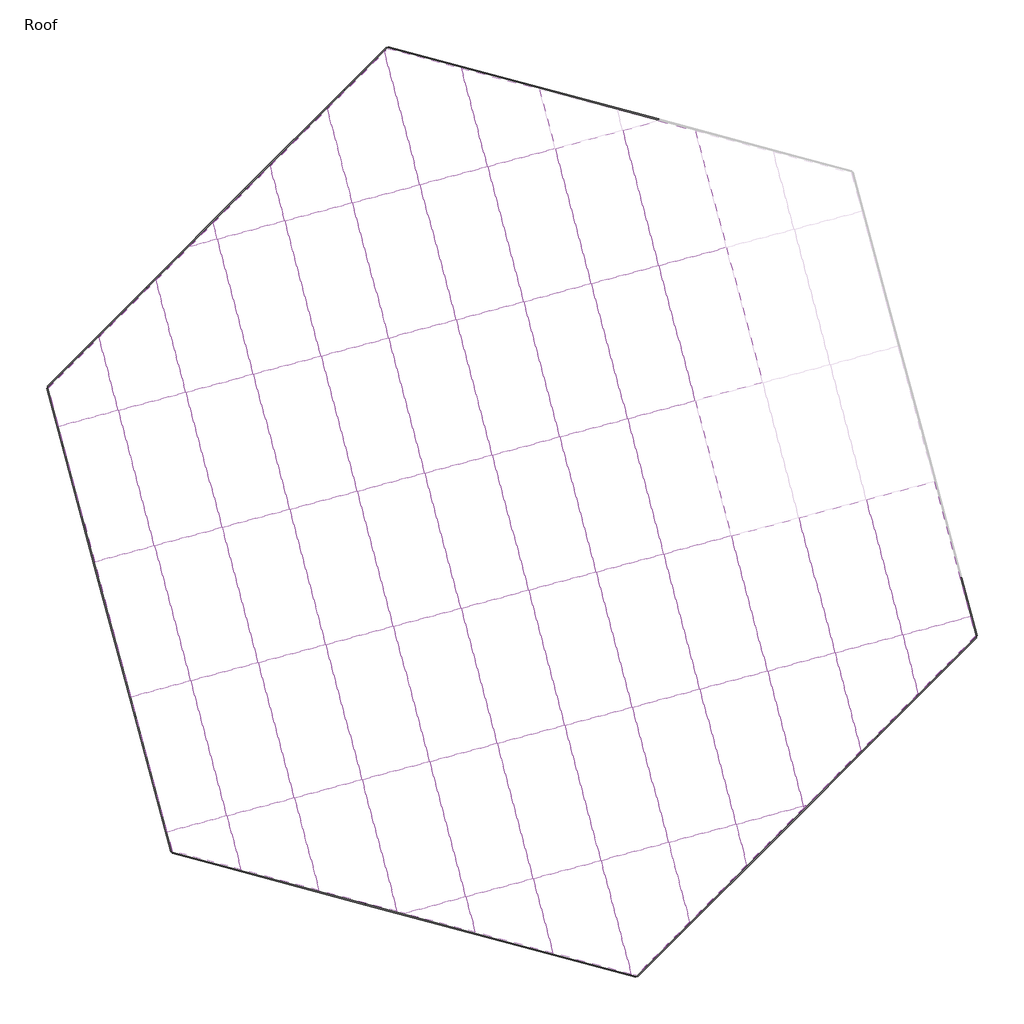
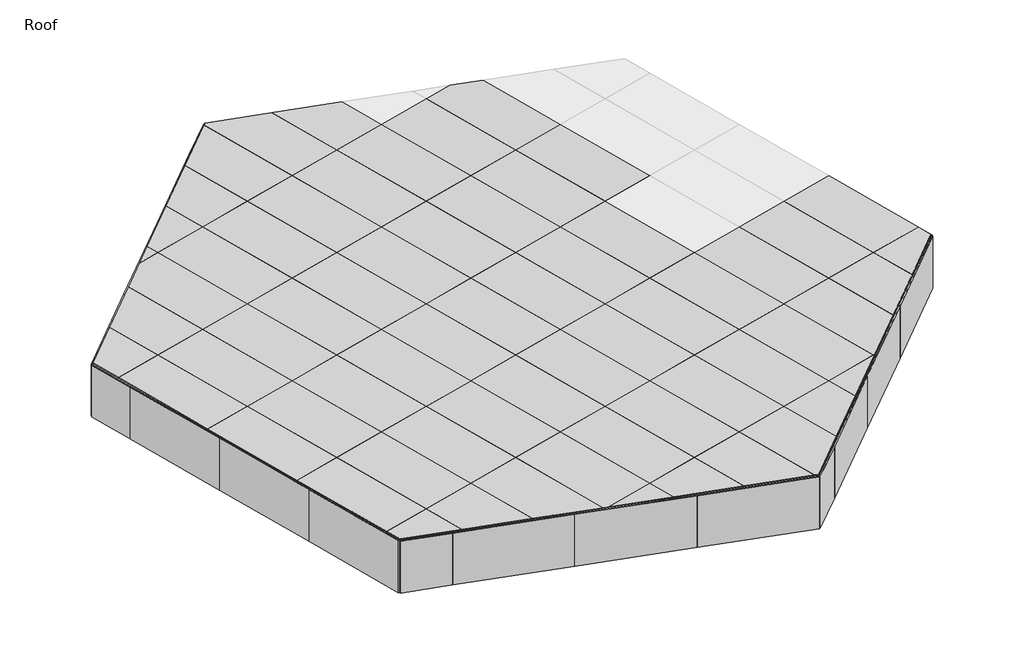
# One storey, part 1 of 2: 97 plates.
"""IFC4 building model written with IfcOpenShell, lengths in millimetres."""

from ifc_helpers import new_model, si_unit, origin, place, context, project, spatial, transform, mapped, element, save
from components import system_panel_glazed_1e57f9bb, system_panel_glazed_41de1ca9, system_panel_glazed_9d528060, system_panel_glazed_957c16e9, system_panel_glazed_10bb1eec, system_panel_glazed_0ee02577, system_panel_glazed_58931c70, system_panel_glazed_65a3f4b0, system_panel_glazed_29dc0488, system_panel_glazed_01caf445, system_panel_glazed_ebe184de, system_panel_glazed_0122edaa, system_panel_glazed_83acb073, system_panel_glazed_06145104, system_panel_glazed_495bd35e, system_panel_glazed_f12b8896, system_panel_glazed_990974af, system_panel_glazed_03df962e, system_panel_glazed_b678a0e2, system_panel_glazed_1b561ad4, system_panel_glazed_bc645063, system_panel_glazed_304d5fd4, system_panel_glazed_222c0f4e, system_panel_glazed_697c0dd3, system_panel_glazed_98c912bf, system_panel_glazed_e6bc90fe, system_panel_glazed_f067ecaa

model = new_model("IFC4")

# Units and contexts
model_context = context("Model", 3, world=origin())
ifc_project = project(units=[si_unit("LENGTHUNIT", "METRE", prefix="MILLI")], contexts=[model_context])

# Site, building, storey
site = spatial("IfcSite", under=ifc_project)
building = spatial("IfcBuilding", under=site)
storey = spatial("IfcBuildingStorey", under=building, Name="Roof", Elevation=7620.0)

# Plates
placement = place(None, origin())
system_panel_glazed_shape = system_panel_glazed_1e57f9bb(model_context)
element("IfcPlate", 1, ObjectType="System Panel : Glazed", at=placement, inside=storey, context=model_context, shape_type="MappedRepresentation", body=[
    mapped(system_panel_glazed_shape, transform((-38993.5918357, 9917.6121631, 7620.0), x_axis=(0.9659258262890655, -0.25881904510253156, 0.0), y_axis=(0.25881904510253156, 0.9659258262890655, 0.0), z_axis=(0.0, 0.0, 1.0))),
])
element("IfcPlate", 2, ObjectType="System Panel : Glazed", at=placement, inside=storey, context=model_context, shape_type="MappedRepresentation", body=[
    mapped(system_panel_glazed_shape, transform((-36049.449917, 9128.7317136, 7620.0), x_axis=(0.9659258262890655, -0.25881904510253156, 0.0), y_axis=(0.25881904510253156, 0.9659258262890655, 0.0), z_axis=(0.0, 0.0, 1.0))),
])
element("IfcPlate", 3, ObjectType="System Panel : Glazed", at=placement, inside=storey, context=model_context, shape_type="MappedRepresentation", body=[
    mapped(system_panel_glazed_shape, transform((-28741.6935298, -3567.1783468, 7620.0), x_axis=(-0.7071067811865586, -0.7071067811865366, 0.0), y_axis=(0.7071067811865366, -0.7071067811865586, 0.0), z_axis=(0.0, 0.0, 1.0))),
])
element("IfcPlate", 4, ObjectType="System Panel : Glazed", at=placement, inside=storey, context=model_context, shape_type="MappedRepresentation", body=[
    mapped(system_panel_glazed_shape, transform((-30896.9549989, -5722.4398159, 7620.0), x_axis=(-0.7071067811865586, -0.7071067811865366, 0.0), y_axis=(0.7071067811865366, -0.7071067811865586, 0.0), z_axis=(0.0, 0.0, 1.0))),
])
element("IfcPlate", 5, ObjectType="System Panel : Glazed", at=placement, inside=storey, context=model_context, shape_type="MappedRepresentation", body=[
    mapped(system_panel_glazed_shape, transform((-33052.216468, -7877.701285, 7620.0), x_axis=(-0.7071067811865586, -0.7071067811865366, 0.0), y_axis=(0.7071067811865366, -0.7071067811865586, 0.0), z_axis=(0.0, 0.0, 1.0))),
])
element("IfcPlate", 6, ObjectType="System Panel : Glazed", at=placement, inside=storey, context=model_context, shape_type="MappedRepresentation", body=[
    mapped(system_panel_glazed_shape, transform((-36527.1409606, -9486.1145934, 7620.0), x_axis=(-0.9659258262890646, 0.2588190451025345, 0.0), y_axis=(-0.2588190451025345, -0.9659258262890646, 0.0), z_axis=(0.0, 0.0, 1.0))),
])
element("IfcPlate", 7, ObjectType="System Panel : Glazed", at=placement, inside=storey, context=model_context, shape_type="MappedRepresentation", body=[
    mapped(system_panel_glazed_shape, transform((-39471.2828793, -8697.2341439, 7620.0), x_axis=(-0.9659258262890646, 0.2588190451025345, 0.0), y_axis=(-0.2588190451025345, -0.9659258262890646, 0.0), z_axis=(0.0, 0.0, 1.0))),
])
element("IfcPlate", 8, ObjectType="System Panel : Glazed", at=placement, inside=storey, context=model_context, shape_type="MappedRepresentation", body=[
    mapped(system_panel_glazed_shape, transform((-42415.4247978, -7908.3536944, 7620.0), x_axis=(-0.9659258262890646, 0.2588190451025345, 0.0), y_axis=(-0.2588190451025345, -0.9659258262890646, 0.0), z_axis=(0.0, 0.0, 1.0))),
])
element("IfcPlate", 9, ObjectType="System Panel : Glazed", at=placement, inside=storey, context=model_context, shape_type="MappedRepresentation", body=[
    mapped(system_panel_glazed_shape, transform((-28741.6935298, -3567.1783468, 7620.0), x_axis=(-0.7071067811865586, -0.7071067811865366, 0.0), y_axis=(0.7071067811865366, -0.7071067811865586, 0.0), z_axis=(0.0, 0.0, 1.0))),
])
element("IfcPlate", 10, ObjectType="System Panel : Glazed", at=placement, inside=storey, context=model_context, shape_type="MappedRepresentation", body=[
    mapped(system_panel_glazed_shape, transform((-30896.9549989, -5722.4398159, 7620.0), x_axis=(-0.7071067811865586, -0.7071067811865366, 0.0), y_axis=(0.7071067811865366, -0.7071067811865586, 0.0), z_axis=(0.0, 0.0, 1.0))),
])
element("IfcPlate", 11, ObjectType="System Panel : Glazed", at=placement, inside=storey, context=model_context, shape_type="MappedRepresentation", body=[
    mapped(system_panel_glazed_shape, transform((-33052.216468, -7877.701285, 7620.0), x_axis=(-0.7071067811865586, -0.7071067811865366, 0.0), y_axis=(0.7071067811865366, -0.7071067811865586, 0.0), z_axis=(0.0, 0.0, 1.0))),
])
element("IfcPlate", 12, ObjectType="System Panel : Glazed", at=placement, inside=storey, context=model_context, shape_type="MappedRepresentation", body=[
    mapped(system_panel_glazed_shape, transform((-28172.0453679, -593.7308413, 9144.0), x_axis=(0.25881904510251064, -0.965925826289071, 0.0), y_axis=(0.0, 0.0, 1.0), z_axis=(-0.965925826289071, -0.25881904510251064, 0.0))),
])
element("IfcPlate", 13, ObjectType="System Panel : Glazed", at=placement, inside=storey, context=model_context, shape_type="MappedRepresentation", body=[
    mapped(system_panel_glazed_shape, transform((-29644.1163271, -988.171066, 9144.0), x_axis=(0.25881904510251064, -0.965925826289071, 0.0), y_axis=(0.0, 0.0, 1.0), z_axis=(-0.965925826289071, -0.25881904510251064, 0.0))),
])
element("IfcPlate", 14, ObjectType="System Panel : Glazed", at=placement, inside=storey, context=model_context, shape_type="MappedRepresentation", body=[
    mapped(system_panel_glazed_shape, transform((-32693.9481853, 4505.6725463, 9144.0), x_axis=(0.25881904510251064, -0.965925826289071, 0.0), y_axis=(0.0, 0.0, 1.0), z_axis=(-0.965925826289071, -0.25881904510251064, 0.0))),
])
element("IfcPlate", 15, ObjectType="System Panel : Glazed", at=placement, inside=storey, context=model_context, shape_type="MappedRepresentation", body=[
    mapped(system_panel_glazed_shape, transform((-31116.1872864, -1382.6112908, 9144.0), x_axis=(0.25881904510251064, -0.965925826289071, 0.0), y_axis=(0.0, 0.0, 1.0), z_axis=(-0.965925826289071, -0.25881904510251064, 0.0))),
])
element("IfcPlate", 16, ObjectType="System Panel : Glazed", at=placement, inside=storey, context=model_context, shape_type="MappedRepresentation", body=[
    mapped(system_panel_glazed_shape, transform((-34954.8995941, 7055.3742401, 9144.0), x_axis=(0.25881904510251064, -0.965925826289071, 0.0), y_axis=(0.0, 0.0, 1.0), z_axis=(-0.965925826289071, -0.25881904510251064, 0.0))),
])
element("IfcPlate", 17, ObjectType="System Panel : Glazed", at=placement, inside=storey, context=model_context, shape_type="MappedRepresentation", body=[
    mapped(system_panel_glazed_shape, transform((-34166.0191446, 4111.2323216, 9144.0), x_axis=(0.25881904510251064, -0.965925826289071, 0.0), y_axis=(0.0, 0.0, 1.0), z_axis=(-0.965925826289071, -0.25881904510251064, 0.0))),
])
element("IfcPlate", 18, ObjectType="System Panel : Glazed", at=placement, inside=storey, context=model_context, shape_type="MappedRepresentation", body=[
    mapped(system_panel_glazed_shape, transform((-33377.1386951, 1167.090403, 9144.0), x_axis=(0.25881904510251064, -0.965925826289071, 0.0), y_axis=(0.0, 0.0, 1.0), z_axis=(-0.965925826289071, -0.25881904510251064, 0.0))),
])
element("IfcPlate", 19, ObjectType="System Panel : Glazed", at=placement, inside=storey, context=model_context, shape_type="MappedRepresentation", body=[
    mapped(system_panel_glazed_shape, transform((-32588.2582457, -1777.0515155, 9144.0), x_axis=(0.25881904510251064, -0.965925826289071, 0.0), y_axis=(0.0, 0.0, 1.0), z_axis=(-0.965925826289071, -0.25881904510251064, 0.0))),
])
element("IfcPlate", 20, ObjectType="System Panel : Glazed", at=placement, inside=storey, context=model_context, shape_type="MappedRepresentation", body=[
    mapped(system_panel_glazed_shape, transform((-31799.3777962, -4721.193434, 9144.0), x_axis=(0.25881904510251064, -0.965925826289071, 0.0), y_axis=(0.0, 0.0, 1.0), z_axis=(-0.965925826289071, -0.25881904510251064, 0.0))),
])
element("IfcPlate", 21, ObjectType="System Panel : Glazed", at=placement, inside=storey, context=model_context, shape_type="MappedRepresentation", body=[
    mapped(system_panel_glazed_shape, transform((-36426.9705533, 6660.9340154, 9144.0), x_axis=(0.25881904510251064, -0.965925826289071, 0.0), y_axis=(0.0, 0.0, 1.0), z_axis=(-0.965925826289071, -0.25881904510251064, 0.0))),
])
element("IfcPlate", 22, ObjectType="System Panel : Glazed", at=placement, inside=storey, context=model_context, shape_type="MappedRepresentation", body=[
    mapped(system_panel_glazed_shape, transform((-35638.0901039, 3716.7920968, 9144.0), x_axis=(0.25881904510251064, -0.965925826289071, 0.0), y_axis=(0.0, 0.0, 1.0), z_axis=(-0.965925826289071, -0.25881904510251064, 0.0))),
])
element("IfcPlate", 23, ObjectType="System Panel : Glazed", at=placement, inside=storey, context=model_context, shape_type="MappedRepresentation", body=[
    mapped(system_panel_glazed_shape, transform((-34849.2096544, 772.6501783, 9144.0), x_axis=(0.25881904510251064, -0.965925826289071, 0.0), y_axis=(0.0, 0.0, 1.0), z_axis=(-0.965925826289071, -0.25881904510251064, 0.0))),
])
element("IfcPlate", 24, ObjectType="System Panel : Glazed", at=placement, inside=storey, context=model_context, shape_type="MappedRepresentation", body=[
    mapped(system_panel_glazed_shape, transform((-34060.3292049, -2171.4917402, 9144.0), x_axis=(0.25881904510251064, -0.965925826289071, 0.0), y_axis=(0.0, 0.0, 1.0), z_axis=(-0.965925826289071, -0.25881904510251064, 0.0))),
])
element("IfcPlate", 25, ObjectType="System Panel : Glazed", at=placement, inside=storey, context=model_context, shape_type="MappedRepresentation", body=[
    mapped(system_panel_glazed_shape, transform((-33271.4487555, -5115.6336588, 9144.0), x_axis=(0.25881904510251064, -0.965925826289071, 0.0), y_axis=(0.0, 0.0, 1.0), z_axis=(-0.965925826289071, -0.25881904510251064, 0.0))),
])
element("IfcPlate", 26, ObjectType="System Panel : Glazed", at=placement, inside=storey, context=model_context, shape_type="MappedRepresentation", body=[
    mapped(system_panel_glazed_shape, transform((-37899.0415126, 6266.4937906, 9144.0), x_axis=(0.25881904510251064, -0.965925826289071, 0.0), y_axis=(0.0, 0.0, 1.0), z_axis=(-0.965925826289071, -0.25881904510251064, 0.0))),
])
element("IfcPlate", 27, ObjectType="System Panel : Glazed", at=placement, inside=storey, context=model_context, shape_type="MappedRepresentation", body=[
    mapped(system_panel_glazed_shape, transform((-37110.1610631, 3322.3518721, 9144.0), x_axis=(0.25881904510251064, -0.965925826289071, 0.0), y_axis=(0.0, 0.0, 1.0), z_axis=(-0.965925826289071, -0.25881904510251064, 0.0))),
])
element("IfcPlate", 28, ObjectType="System Panel : Glazed", at=placement, inside=storey, context=model_context, shape_type="MappedRepresentation", body=[
    mapped(system_panel_glazed_shape, transform((-36321.2806137, 378.2099536, 9144.0), x_axis=(0.25881904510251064, -0.965925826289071, 0.0), y_axis=(0.0, 0.0, 1.0), z_axis=(-0.965925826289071, -0.25881904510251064, 0.0))),
])
element("IfcPlate", 29, ObjectType="System Panel : Glazed", at=placement, inside=storey, context=model_context, shape_type="MappedRepresentation", body=[
    mapped(system_panel_glazed_shape, transform((-35532.4001642, -2565.931965, 9144.0), x_axis=(0.25881904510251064, -0.965925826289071, 0.0), y_axis=(0.0, 0.0, 1.0), z_axis=(-0.965925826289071, -0.25881904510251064, 0.0))),
])
element("IfcPlate", 30, ObjectType="System Panel : Glazed", at=placement, inside=storey, context=model_context, shape_type="MappedRepresentation", body=[
    mapped(system_panel_glazed_shape, transform((-34743.5197147, -5510.0738835, 9144.0), x_axis=(0.25881904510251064, -0.965925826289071, 0.0), y_axis=(0.0, 0.0, 1.0), z_axis=(-0.965925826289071, -0.25881904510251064, 0.0))),
])
element("IfcPlate", 31, ObjectType="System Panel : Glazed", at=placement, inside=storey, context=model_context, shape_type="MappedRepresentation", body=[
    mapped(system_panel_glazed_shape, transform((-39371.1124719, 5872.0535659, 9144.0), x_axis=(0.25881904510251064, -0.965925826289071, 0.0), y_axis=(0.0, 0.0, 1.0), z_axis=(-0.965925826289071, -0.25881904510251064, 0.0))),
])
element("IfcPlate", 32, ObjectType="System Panel : Glazed", at=placement, inside=storey, context=model_context, shape_type="MappedRepresentation", body=[
    mapped(system_panel_glazed_shape, transform((-38582.2320224, 2927.9116474, 9144.0), x_axis=(0.25881904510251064, -0.965925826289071, 0.0), y_axis=(0.0, 0.0, 1.0), z_axis=(-0.965925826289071, -0.25881904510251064, 0.0))),
])
element("IfcPlate", 33, ObjectType="System Panel : Glazed", at=placement, inside=storey, context=model_context, shape_type="MappedRepresentation", body=[
    mapped(system_panel_glazed_shape, transform((-37793.3515729, -16.2302712, 9144.0), x_axis=(0.25881904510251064, -0.965925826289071, 0.0), y_axis=(0.0, 0.0, 1.0), z_axis=(-0.965925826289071, -0.25881904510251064, 0.0))),
])
element("IfcPlate", 34, ObjectType="System Panel : Glazed", at=placement, inside=storey, context=model_context, shape_type="MappedRepresentation", body=[
    mapped(system_panel_glazed_shape, transform((-37004.4711235, -2960.3721897, 9144.0), x_axis=(0.25881904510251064, -0.965925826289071, 0.0), y_axis=(0.0, 0.0, 1.0), z_axis=(-0.965925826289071, -0.25881904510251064, 0.0))),
])
element("IfcPlate", 35, ObjectType="System Panel : Glazed", at=placement, inside=storey, context=model_context, shape_type="MappedRepresentation", body=[
    mapped(system_panel_glazed_shape, transform((-36215.590674, -5904.5141082, 9144.0), x_axis=(0.25881904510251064, -0.965925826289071, 0.0), y_axis=(0.0, 0.0, 1.0), z_axis=(-0.965925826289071, -0.25881904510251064, 0.0))),
])
element("IfcPlate", 36, ObjectType="System Panel : Glazed", at=placement, inside=storey, context=model_context, shape_type="MappedRepresentation", body=[
    mapped(system_panel_glazed_shape, transform((-40843.1834311, 5477.6133412, 9144.0), x_axis=(0.25881904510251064, -0.965925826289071, 0.0), y_axis=(0.0, 0.0, 1.0), z_axis=(-0.965925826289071, -0.25881904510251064, 0.0))),
])
element("IfcPlate", 37, ObjectType="System Panel : Glazed", at=placement, inside=storey, context=model_context, shape_type="MappedRepresentation", body=[
    mapped(system_panel_glazed_shape, transform((-40054.3029817, 2533.4714226, 9144.0), x_axis=(0.25881904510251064, -0.965925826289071, 0.0), y_axis=(0.0, 0.0, 1.0), z_axis=(-0.965925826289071, -0.25881904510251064, 0.0))),
])
element("IfcPlate", 38, ObjectType="System Panel : Glazed", at=placement, inside=storey, context=model_context, shape_type="MappedRepresentation", body=[
    mapped(system_panel_glazed_shape, transform((-39265.4225322, -410.6704959, 9144.0), x_axis=(0.25881904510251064, -0.965925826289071, 0.0), y_axis=(0.0, 0.0, 1.0), z_axis=(-0.965925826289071, -0.25881904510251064, 0.0))),
])
element("IfcPlate", 39, ObjectType="System Panel : Glazed", at=placement, inside=storey, context=model_context, shape_type="MappedRepresentation", body=[
    mapped(system_panel_glazed_shape, transform((-38476.5420827, -3354.8124144, 9144.0), x_axis=(0.25881904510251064, -0.965925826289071, 0.0), y_axis=(0.0, 0.0, 1.0), z_axis=(-0.965925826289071, -0.25881904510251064, 0.0))),
])
element("IfcPlate", 40, ObjectType="System Panel : Glazed", at=placement, inside=storey, context=model_context, shape_type="MappedRepresentation", body=[
    mapped(system_panel_glazed_shape, transform((-37687.6616332, -6298.954333, 9144.0), x_axis=(0.25881904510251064, -0.965925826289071, 0.0), y_axis=(0.0, 0.0, 1.0), z_axis=(-0.965925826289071, -0.25881904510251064, 0.0))),
])
element("IfcPlate", 41, ObjectType="System Panel : Glazed", at=placement, inside=storey, context=model_context, shape_type="MappedRepresentation", body=[
    mapped(system_panel_glazed_shape, transform((-42315.2543904, 5083.1731164, 9144.0), x_axis=(0.25881904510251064, -0.965925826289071, 0.0), y_axis=(0.0, 0.0, 1.0), z_axis=(-0.965925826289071, -0.25881904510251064, 0.0))),
])
element("IfcPlate", 42, ObjectType="System Panel : Glazed", at=placement, inside=storey, context=model_context, shape_type="MappedRepresentation", body=[
    mapped(system_panel_glazed_shape, transform((-41526.3739409, 2139.0311979, 9144.0), x_axis=(0.25881904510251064, -0.965925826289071, 0.0), y_axis=(0.0, 0.0, 1.0), z_axis=(-0.965925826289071, -0.25881904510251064, 0.0))),
])
element("IfcPlate", 43, ObjectType="System Panel : Glazed", at=placement, inside=storey, context=model_context, shape_type="MappedRepresentation", body=[
    mapped(system_panel_glazed_shape, transform((-40737.4934915, -805.1107206, 9144.0), x_axis=(0.25881904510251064, -0.965925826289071, 0.0), y_axis=(0.0, 0.0, 1.0), z_axis=(-0.965925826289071, -0.25881904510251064, 0.0))),
])
element("IfcPlate", 44, ObjectType="System Panel : Glazed", at=placement, inside=storey, context=model_context, shape_type="MappedRepresentation", body=[
    mapped(system_panel_glazed_shape, transform((-39948.613042, -3749.2526392, 9144.0), x_axis=(0.25881904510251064, -0.965925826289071, 0.0), y_axis=(0.0, 0.0, 1.0), z_axis=(-0.965925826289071, -0.25881904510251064, 0.0))),
])
element("IfcPlate", 45, ObjectType="System Panel : Glazed", at=placement, inside=storey, context=model_context, shape_type="MappedRepresentation", body=[
    mapped(system_panel_glazed_shape, transform((-42998.4449002, 1744.5909732, 9144.0), x_axis=(0.25881904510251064, -0.965925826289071, 0.0), y_axis=(0.0, 0.0, 1.0), z_axis=(-0.965925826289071, -0.25881904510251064, 0.0))),
])
element("IfcPlate", 46, ObjectType="System Panel : Glazed", at=placement, inside=storey, context=model_context, shape_type="MappedRepresentation", body=[
    mapped(system_panel_glazed_shape, transform((-42209.5644507, -1199.5509454, 9144.0), x_axis=(0.25881904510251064, -0.965925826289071, 0.0), y_axis=(0.0, 0.0, 1.0), z_axis=(-0.965925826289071, -0.25881904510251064, 0.0))),
])
element("IfcPlate", 47, ObjectType="System Panel : Glazed", at=placement, inside=storey, context=model_context, shape_type="MappedRepresentation", body=[
    mapped(system_panel_glazed_shape, transform((-41420.6840013, -4143.6928639, 9144.0), x_axis=(0.25881904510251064, -0.965925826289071, 0.0), y_axis=(0.0, 0.0, 1.0), z_axis=(-0.965925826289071, -0.25881904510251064, 0.0))),
])
element("IfcPlate", 48, ObjectType="System Panel : Glazed", at=placement, inside=storey, context=model_context, shape_type="MappedRepresentation", body=[
    mapped(system_panel_glazed_shape, transform((-44470.5158595, 1350.1507484, 9144.0), x_axis=(0.25881904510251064, -0.965925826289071, 0.0), y_axis=(0.0, 0.0, 1.0), z_axis=(-0.965925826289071, -0.25881904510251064, 0.0))),
])
element("IfcPlate", 49, ObjectType="System Panel : Glazed", at=placement, inside=storey, context=model_context, shape_type="MappedRepresentation", body=[
    mapped(system_panel_glazed_shape, transform((-43681.63541, -1593.9911701, 9144.0), x_axis=(0.25881904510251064, -0.965925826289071, 0.0), y_axis=(0.0, 0.0, 1.0), z_axis=(-0.965925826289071, -0.25881904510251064, 0.0))),
])
element("IfcPlate", 50, ObjectType="System Panel : Glazed", at=placement, inside=storey, context=model_context, shape_type="MappedRepresentation", body=[
    mapped(system_panel_glazed_shape, transform((-42892.7549605, -4538.1330886, 9144.0), x_axis=(0.25881904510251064, -0.965925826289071, 0.0), y_axis=(0.0, 0.0, 1.0), z_axis=(-0.965925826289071, -0.25881904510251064, 0.0))),
])
element("IfcPlate", 51, ObjectType="System Panel : Glazed", at=placement, inside=storey, context=model_context, shape_type="MappedRepresentation", body=[
    mapped(system_panel_glazed_shape, transform((-38993.5918357, 9917.6121631, 7620.0), x_axis=(0.9659258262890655, -0.25881904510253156, 0.0), y_axis=(0.25881904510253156, 0.9659258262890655, 0.0), z_axis=(0.0, 0.0, 1.0))),
])
element("IfcPlate", 52, ObjectType="System Panel : Glazed", at=placement, inside=storey, context=model_context, shape_type="MappedRepresentation", body=[
    mapped(system_panel_glazed_shape, transform((-46779.0392665, 3998.6759164, 7620.0), x_axis=(0.7071067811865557, 0.7071067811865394, 0.0), y_axis=(-0.7071067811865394, 0.7071067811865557, 0.0), z_axis=(0.0, 0.0, 1.0))),
])
element("IfcPlate", 53, ObjectType="System Panel : Glazed", at=placement, inside=storey, context=model_context, shape_type="MappedRepresentation", body=[
    mapped(system_panel_glazed_shape, transform((-44623.7777974, 6153.9373856, 7620.0), x_axis=(0.7071067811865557, 0.7071067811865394, 0.0), y_axis=(-0.7071067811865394, 0.7071067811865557, 0.0), z_axis=(0.0, 0.0, 1.0))),
])
element("IfcPlate", 54, ObjectType="System Panel : Glazed", at=placement, inside=storey, context=model_context, shape_type="MappedRepresentation", body=[
    mapped(system_panel_glazed_shape, transform((-42468.5163283, 8309.1988547, 7620.0), x_axis=(0.7071067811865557, 0.7071067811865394, 0.0), y_axis=(-0.7071067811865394, 0.7071067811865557, 0.0), z_axis=(0.0, 0.0, 1.0))),
])
element("IfcPlate", 55, ObjectType="System Panel : Glazed", at=placement, inside=storey, context=model_context, shape_type="MappedRepresentation", body=[
    mapped(system_panel_glazed_shape, transform((-45545.813829, -5703.1874618, 7620.0), x_axis=(-0.2588190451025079, 0.9659258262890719, 0.0), y_axis=(-0.9659258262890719, -0.2588190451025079, 0.0), z_axis=(0.0, 0.0, 1.0))),
])
element("IfcPlate", 56, ObjectType="System Panel : Glazed", at=placement, inside=storey, context=model_context, shape_type="MappedRepresentation", body=[
    mapped(system_panel_glazed_shape, transform((-46334.6942785, -2759.0455431, 7620.0), x_axis=(-0.2588190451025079, 0.9659258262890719, 0.0), y_axis=(-0.9659258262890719, -0.2588190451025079, 0.0), z_axis=(0.0, 0.0, 1.0))),
])
element("IfcPlate", 57, ObjectType="System Panel : Glazed", at=placement, inside=storey, context=model_context, shape_type="MappedRepresentation", body=[
    mapped(system_panel_glazed_shape, transform((-47123.574728, 185.0963754, 7620.0), x_axis=(-0.2588190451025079, 0.9659258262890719, 0.0), y_axis=(-0.9659258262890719, -0.2588190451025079, 0.0), z_axis=(0.0, 0.0, 1.0))),
])
element("IfcPlate", 58, ObjectType="System Panel : Glazed", at=placement, inside=storey, context=model_context, shape_type="MappedRepresentation", body=[
    mapped(system_panel_glazed_shape, transform((-38993.5918357, 9917.6121631, 7620.0), x_axis=(0.9659258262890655, -0.25881904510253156, 0.0), y_axis=(0.25881904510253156, 0.9659258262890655, 0.0), z_axis=(0.0, 0.0, 1.0))),
])
element("IfcPlate", 59, ObjectType="System Panel : Glazed", at=placement, inside=storey, context=model_context, shape_type="MappedRepresentation", body=[
    mapped(system_panel_glazed_shape, transform((-46779.0392665, 3998.6759164, 7620.0), x_axis=(0.7071067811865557, 0.7071067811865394, 0.0), y_axis=(-0.7071067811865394, 0.7071067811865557, 0.0), z_axis=(0.0, 0.0, 1.0))),
])
element("IfcPlate", 60, ObjectType="System Panel : Glazed", at=placement, inside=storey, context=model_context, shape_type="MappedRepresentation", body=[
    mapped(system_panel_glazed_shape, transform((-44623.7777974, 6153.9373856, 7620.0), x_axis=(0.7071067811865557, 0.7071067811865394, 0.0), y_axis=(-0.7071067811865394, 0.7071067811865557, 0.0), z_axis=(0.0, 0.0, 1.0))),
])
element("IfcPlate", 61, ObjectType="System Panel : Glazed", at=placement, inside=storey, context=model_context, shape_type="MappedRepresentation", body=[
    mapped(system_panel_glazed_shape, transform((-42468.5163283, 8309.1988547, 7620.0), x_axis=(0.7071067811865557, 0.7071067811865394, 0.0), y_axis=(-0.7071067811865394, 0.7071067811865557, 0.0), z_axis=(0.0, 0.0, 1.0))),
])
system_panel_glazed_2_shape = system_panel_glazed_41de1ca9(model_context)
element("IfcPlate", 62, ObjectType="System Panel : Glazed", at=placement, inside=storey, context=model_context, shape_type="MappedRepresentation", body=[
    mapped(system_panel_glazed_2_shape, transform((-34592.4586018, -9417.9434189, 7620.0), x_axis=(-0.7071067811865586, -0.7071067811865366, 0.0), y_axis=(0.7071067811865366, -0.7071067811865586, 0.0), z_axis=(0.0, 0.0, 1.0))),
])
element("IfcPlate", 63, ObjectType="System Panel : Glazed", at=placement, inside=storey, context=model_context, shape_type="MappedRepresentation", body=[
    mapped(system_panel_glazed_2_shape, transform((-27833.3903194, -1857.6086886, 7620.0), x_axis=(0.25881904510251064, -0.965925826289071, 0.0), y_axis=(0.965925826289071, 0.25881904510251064, 0.0), z_axis=(0.0, 0.0, 1.0))),
])
element("IfcPlate", 64, ObjectType="System Panel : Glazed", at=placement, inside=storey, context=model_context, shape_type="MappedRepresentation", body=[
    mapped(system_panel_glazed_2_shape, transform((-27833.3903194, -1857.6086886, 7620.0), x_axis=(0.25881904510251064, -0.965925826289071, 0.0), y_axis=(0.965925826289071, 0.25881904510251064, 0.0), z_axis=(0.0, 0.0, 1.0))),
])
element("IfcPlate", 65, ObjectType="System Panel : Glazed", at=placement, inside=storey, context=model_context, shape_type="MappedRepresentation", body=[
    mapped(system_panel_glazed_2_shape, transform((-44519.4346806, -7344.5859455, 7620.0), x_axis=(-0.9659258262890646, 0.2588190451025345, 0.0), y_axis=(-0.2588190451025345, -0.9659258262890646, 0.0), z_axis=(0.0, 0.0, 1.0))),
])
element("IfcPlate", 66, ObjectType="System Panel : Glazed", at=placement, inside=storey, context=model_context, shape_type="MappedRepresentation", body=[
    mapped(system_panel_glazed_2_shape, transform((-34592.4586018, -9417.9434189, 7620.0), x_axis=(-0.7071067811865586, -0.7071067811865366, 0.0), y_axis=(0.7071067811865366, -0.7071067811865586, 0.0), z_axis=(0.0, 0.0, 1.0))),
])
element("IfcPlate", 67, ObjectType="System Panel : Glazed", at=placement, inside=storey, context=model_context, shape_type="MappedRepresentation", body=[
    mapped(system_panel_glazed_2_shape, transform((-40928.2741945, 9849.4409885, 7620.0), x_axis=(0.7071067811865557, 0.7071067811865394, 0.0), y_axis=(-0.7071067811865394, 0.7071067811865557, 0.0), z_axis=(0.0, 0.0, 1.0))),
])
element("IfcPlate", 68, ObjectType="System Panel : Glazed", at=placement, inside=storey, context=model_context, shape_type="MappedRepresentation", body=[
    mapped(system_panel_glazed_2_shape, transform((-47687.3424769, 2289.1062582, 7620.0), x_axis=(-0.2588190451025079, 0.9659258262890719, 0.0), y_axis=(-0.9659258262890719, -0.2588190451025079, 0.0), z_axis=(0.0, 0.0, 1.0))),
])
element("IfcPlate", 69, ObjectType="System Panel : Glazed", at=placement, inside=storey, context=model_context, shape_type="MappedRepresentation", body=[
    mapped(system_panel_glazed_2_shape, transform((-40928.2741945, 9849.4409885, 7620.0), x_axis=(0.7071067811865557, 0.7071067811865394, 0.0), y_axis=(-0.7071067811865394, 0.7071067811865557, 0.0), z_axis=(0.0, 0.0, 1.0))),
])
element("IfcPlate", 70, ObjectType="System Panel : Glazed", at=placement, inside=storey, context=model_context, shape_type="MappedRepresentation", body=[
    mapped(system_panel_glazed_2_shape, transform((-27833.3903194, -1857.6086886, 7620.0), x_axis=(0.25881904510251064, -0.965925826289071, 0.0), y_axis=(0.965925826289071, 0.25881904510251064, 0.0), z_axis=(0.0, 0.0, 1.0))),
])
system_panel_glazed_3_shape = system_panel_glazed_9d528060(model_context)
element("IfcPlate", 71, ObjectType="System Panel : Glazed", at=placement, inside=storey, context=model_context, shape_type="MappedRepresentation", body=[
    mapped(system_panel_glazed_3_shape, transform((-27606.9688842, -2702.6249886, 9144.0), x_axis=(0.25881904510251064, -0.965925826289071, 0.0), y_axis=(0.0, 0.0, 1.0), z_axis=(-0.965925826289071, -0.25881904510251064, 0.0))),
])
system_panel_glazed_4_shape = system_panel_glazed_957c16e9(model_context)
element("IfcPlate", 72, ObjectType="System Panel : Glazed", at=placement, inside=storey, context=model_context, shape_type="MappedRepresentation", body=[
    mapped(system_panel_glazed_4_shape, transform((-28965.1747585, -3522.0154957, 9144.0), x_axis=(0.25881904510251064, -0.965925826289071, 0.0), y_axis=(0.0, 0.0, 1.0), z_axis=(-0.965925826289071, -0.25881904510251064, 0.0))),
])
system_panel_glazed_5_shape = system_panel_glazed_10bb1eec(model_context)
element("IfcPlate", 73, ObjectType="System Panel : Glazed", at=placement, inside=storey, context=model_context, shape_type="MappedRepresentation", body=[
    mapped(system_panel_glazed_5_shape, transform((-33482.8286348, 7449.8144648, 9144.0), x_axis=(0.25881904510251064, -0.965925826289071, 0.0), y_axis=(0.0, 0.0, 1.0), z_axis=(-0.965925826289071, -0.25881904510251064, 0.0))),
])
system_panel_glazed_6_shape = system_panel_glazed_0ee02577(model_context)
element("IfcPlate", 74, ObjectType="System Panel : Glazed", at=placement, inside=storey, context=model_context, shape_type="MappedRepresentation", body=[
    mapped(system_panel_glazed_6_shape, transform((-30327.3068369, -4326.7532093, 9144.0), x_axis=(0.25881904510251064, -0.965925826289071, 0.0), y_axis=(0.0, 0.0, 1.0), z_axis=(-0.965925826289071, -0.25881904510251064, 0.0))),
])
system_panel_glazed_7_shape = system_panel_glazed_58931c70(model_context)
element("IfcPlate", 75, ObjectType="System Panel : Glazed", at=placement, inside=storey, context=model_context, shape_type="MappedRepresentation", body=[
    mapped(system_panel_glazed_7_shape, transform((-31350.2526019, -6194.3164165, 9144.0), x_axis=(0.25881904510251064, -0.965925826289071, 0.0), y_axis=(0.0, 0.0, 1.0), z_axis=(-0.965925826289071, -0.25881904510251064, 0.0))),
])
system_panel_glazed_8_shape = system_panel_glazed_65a3f4b0(model_context)
element("IfcPlate", 76, ObjectType="System Panel : Glazed", at=placement, inside=storey, context=model_context, shape_type="MappedRepresentation", body=[
    mapped(system_panel_glazed_8_shape, transform((-31287.1462823, -6632.867469, 9144.0), x_axis=(0.25881904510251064, -0.965925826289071, 0.0), y_axis=(0.0, 0.0, 1.0), z_axis=(-0.965925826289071, -0.25881904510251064, 0.0))),
])
system_panel_glazed_9_shape = system_panel_glazed_29dc0488(model_context)
element("IfcPlate", 77, ObjectType="System Panel : Glazed", at=placement, inside=storey, context=model_context, shape_type="MappedRepresentation", body=[
    mapped(system_panel_glazed_9_shape, transform((-37108.8523284, 9205.7514448, 9144.0), x_axis=(0.25881904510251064, -0.965925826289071, 0.0), y_axis=(0.0, 0.0, 1.0), z_axis=(-0.965925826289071, -0.25881904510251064, 0.0))),
])
system_panel_glazed_10_shape = system_panel_glazed_01caf445(model_context)
element("IfcPlate", 78, ObjectType="System Panel : Glazed", at=placement, inside=storey, context=model_context, shape_type="MappedRepresentation", body=[
    mapped(system_panel_glazed_10_shape, transform((-32645.3521566, -7452.257976, 9144.0), x_axis=(0.25881904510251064, -0.965925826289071, 0.0), y_axis=(0.0, 0.0, 1.0), z_axis=(-0.965925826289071, -0.25881904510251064, 0.0))),
])
system_panel_glazed_11_shape = system_panel_glazed_ebe184de(model_context)
element("IfcPlate", 79, ObjectType="System Panel : Glazed", at=placement, inside=storey, context=model_context, shape_type="MappedRepresentation", body=[
    mapped(system_panel_glazed_11_shape, transform((-38687.9219621, 9210.6357093, 9144.0), x_axis=(0.25881904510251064, -0.965925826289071, 0.0), y_axis=(0.0, 0.0, 1.0), z_axis=(-0.965925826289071, -0.25881904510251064, 0.0))),
])
system_panel_glazed_12_shape = system_panel_glazed_0122edaa(model_context)
element("IfcPlate", 80, ObjectType="System Panel : Glazed", at=placement, inside=storey, context=model_context, shape_type="MappedRepresentation", body=[
    mapped(system_panel_glazed_12_shape, transform((-34010.4244415, -8246.02269, 9144.0), x_axis=(0.25881904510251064, -0.965925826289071, 0.0), y_axis=(0.0, 0.0, 1.0), z_axis=(-0.965925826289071, -0.25881904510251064, 0.0))),
])
system_panel_glazed_13_shape = system_panel_glazed_83acb073(model_context)
element("IfcPlate", 81, ObjectType="System Panel : Glazed", at=placement, inside=storey, context=model_context, shape_type="MappedRepresentation", body=[
    mapped(system_panel_glazed_13_shape, transform((-40153.1265108, 8790.5696915, 9144.0), x_axis=(0.25881904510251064, -0.965925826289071, 0.0), y_axis=(0.0, 0.0, 1.0), z_axis=(-0.965925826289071, -0.25881904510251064, 0.0))),
])
system_panel_glazed_14_shape = system_panel_glazed_06145104(model_context)
element("IfcPlate", 82, ObjectType="System Panel : Glazed", at=placement, inside=storey, context=model_context, shape_type="MappedRepresentation", body=[
    mapped(system_panel_glazed_14_shape, transform((-35489.3618113, -8614.8371217, 9144.0), x_axis=(0.25881904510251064, -0.965925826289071, 0.0), y_axis=(0.0, 0.0, 1.0), z_axis=(-0.965925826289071, -0.25881904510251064, 0.0))),
])
system_panel_glazed_15_shape = system_panel_glazed_495bd35e(model_context)
element("IfcPlate", 83, ObjectType="System Panel : Glazed", at=placement, inside=storey, context=model_context, shape_type="MappedRepresentation", body=[
    mapped(system_panel_glazed_15_shape, transform((-41511.3323851, 7971.1791845, 9144.0), x_axis=(0.25881904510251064, -0.965925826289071, 0.0), y_axis=(0.0, 0.0, 1.0), z_axis=(-0.965925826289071, -0.25881904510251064, 0.0))),
])
system_panel_glazed_16_shape = system_panel_glazed_f12b8896(model_context)
element("IfcPlate", 84, ObjectType="System Panel : Glazed", at=placement, inside=storey, context=model_context, shape_type="MappedRepresentation", body=[
    mapped(system_panel_glazed_16_shape, transform((-37075.2978555, -8584.3270642, 9144.0), x_axis=(0.25881904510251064, -0.965925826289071, 0.0), y_axis=(0.0, 0.0, 1.0), z_axis=(-0.965925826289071, -0.25881904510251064, 0.0))),
])
system_panel_glazed_17_shape = system_panel_glazed_990974af(model_context)
element("IfcPlate", 85, ObjectType="System Panel : Glazed", at=placement, inside=storey, context=model_context, shape_type="MappedRepresentation", body=[
    mapped(system_panel_glazed_17_shape, transform((-42869.5382594, 7151.7886775, 9144.0), x_axis=(0.25881904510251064, -0.965925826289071, 0.0), y_axis=(0.0, 0.0, 1.0), z_axis=(-0.965925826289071, -0.25881904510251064, 0.0))),
])
system_panel_glazed_18_shape = system_panel_glazed_03df962e(model_context)
element("IfcPlate", 86, ObjectType="System Panel : Glazed", at=placement, inside=storey, context=model_context, shape_type="MappedRepresentation", body=[
    mapped(system_panel_glazed_18_shape, transform((-39159.7325925, -6693.3945577, 9144.0), x_axis=(0.25881904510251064, -0.965925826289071, 0.0), y_axis=(0.0, 0.0, 1.0), z_axis=(-0.965925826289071, -0.25881904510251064, 0.0))),
])
system_panel_glazed_19_shape = system_panel_glazed_b678a0e2(model_context)
element("IfcPlate", 87, ObjectType="System Panel : Glazed", at=placement, inside=storey, context=model_context, shape_type="MappedRepresentation", body=[
    mapped(system_panel_glazed_19_shape, transform((-38661.2338997, -8553.8170066, 9144.0), x_axis=(0.25881904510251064, -0.965925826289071, 0.0), y_axis=(0.0, 0.0, 1.0), z_axis=(-0.965925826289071, -0.25881904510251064, 0.0))),
])
system_panel_glazed_20_shape = system_panel_glazed_1b561ad4(model_context)
element("IfcPlate", 88, ObjectType="System Panel : Glazed", at=placement, inside=storey, context=model_context, shape_type="MappedRepresentation", body=[
    mapped(system_panel_glazed_20_shape, transform((-44227.7441337, 6332.3981704, 9144.0), x_axis=(0.25881904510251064, -0.965925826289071, 0.0), y_axis=(0.0, 0.0, 1.0), z_axis=(-0.965925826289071, -0.25881904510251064, 0.0))),
])
system_panel_glazed_21_shape = system_panel_glazed_bc645063(model_context)
element("IfcPlate", 89, ObjectType="System Panel : Glazed", at=placement, inside=storey, context=model_context, shape_type="MappedRepresentation", body=[
    mapped(system_panel_glazed_21_shape, transform((-43787.3253497, 4688.7328917, 9144.0), x_axis=(0.25881904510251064, -0.965925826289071, 0.0), y_axis=(0.0, 0.0, 1.0), z_axis=(-0.965925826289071, -0.25881904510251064, 0.0))),
])
system_panel_glazed_22_shape = system_panel_glazed_304d5fd4(model_context)
element("IfcPlate", 90, ObjectType="System Panel : Glazed", at=placement, inside=storey, context=model_context, shape_type="MappedRepresentation", body=[
    mapped(system_panel_glazed_22_shape, transform((-40641.6101687, -7051.2359898, 9144.0), x_axis=(0.25881904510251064, -0.965925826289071, 0.0), y_axis=(0.0, 0.0, 1.0), z_axis=(-0.965925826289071, -0.25881904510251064, 0.0))),
])
system_panel_glazed_23_shape = system_panel_glazed_222c0f4e(model_context)
element("IfcPlate", 91, ObjectType="System Panel : Glazed", at=placement, inside=storey, context=model_context, shape_type="MappedRepresentation", body=[
    mapped(system_panel_glazed_23_shape, transform((-45191.5097833, 4040.9367041, 9144.0), x_axis=(0.25881904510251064, -0.965925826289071, 0.0), y_axis=(0.0, 0.0, 1.0), z_axis=(-0.965925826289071, -0.25881904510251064, 0.0))),
])
system_panel_glazed_24_shape = system_panel_glazed_697c0dd3(model_context)
element("IfcPlate", 92, ObjectType="System Panel : Glazed", at=placement, inside=storey, context=model_context, shape_type="MappedRepresentation", body=[
    mapped(system_panel_glazed_24_shape, transform((-42227.5462129, -7020.7259322, 9144.0), x_axis=(0.25881904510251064, -0.965925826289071, 0.0), y_axis=(0.0, 0.0, 1.0), z_axis=(-0.965925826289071, -0.25881904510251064, 0.0))),
])
system_panel_glazed_25_shape = system_panel_glazed_98c912bf(model_context)
element("IfcPlate", 93, ObjectType="System Panel : Glazed", at=placement, inside=storey, context=model_context, shape_type="MappedRepresentation", body=[
    mapped(system_panel_glazed_25_shape, transform((-46549.7156576, 3221.5461971, 9144.0), x_axis=(0.25881904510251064, -0.965925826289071, 0.0), y_axis=(0.0, 0.0, 1.0), z_axis=(-0.965925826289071, -0.25881904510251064, 0.0))),
])
system_panel_glazed_26_shape = system_panel_glazed_e6bc90fe(model_context)
element("IfcPlate", 94, ObjectType="System Panel : Glazed", at=placement, inside=storey, context=model_context, shape_type="MappedRepresentation", body=[
    mapped(system_panel_glazed_26_shape, transform((-45942.5868187, 955.7105237, 9144.0), x_axis=(0.25881904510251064, -0.965925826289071, 0.0), y_axis=(0.0, 0.0, 1.0), z_axis=(-0.965925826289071, -0.25881904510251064, 0.0))),
])
element("IfcPlate", 95, ObjectType="System Panel : Glazed", at=placement, inside=storey, context=model_context, shape_type="MappedRepresentation", body=[
    mapped(system_panel_glazed_26_shape, transform((-45153.7063693, -1988.4313948, 9144.0), x_axis=(0.25881904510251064, -0.965925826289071, 0.0), y_axis=(0.0, 0.0, 1.0), z_axis=(-0.965925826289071, -0.25881904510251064, 0.0))),
])
element("IfcPlate", 96, ObjectType="System Panel : Glazed", at=placement, inside=storey, context=model_context, shape_type="MappedRepresentation", body=[
    mapped(system_panel_glazed_26_shape, transform((-44364.8259198, -4932.5733134, 9144.0), x_axis=(0.25881904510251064, -0.965925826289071, 0.0), y_axis=(0.0, 0.0, 1.0), z_axis=(-0.965925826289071, -0.25881904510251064, 0.0))),
])
system_panel_glazed_27_shape = system_panel_glazed_f067ecaa(model_context)
element("IfcPlate", 97, ObjectType="System Panel : Glazed", at=placement, inside=storey, context=model_context, shape_type="MappedRepresentation", body=[
    mapped(system_panel_glazed_27_shape, transform((-43813.4822572, -6990.2158747, 9144.0), x_axis=(0.25881904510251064, -0.965925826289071, 0.0), y_axis=(0.0, 0.0, 1.0), z_axis=(-0.965925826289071, -0.25881904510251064, 0.0))),
])

save(model, "model.ifc")
